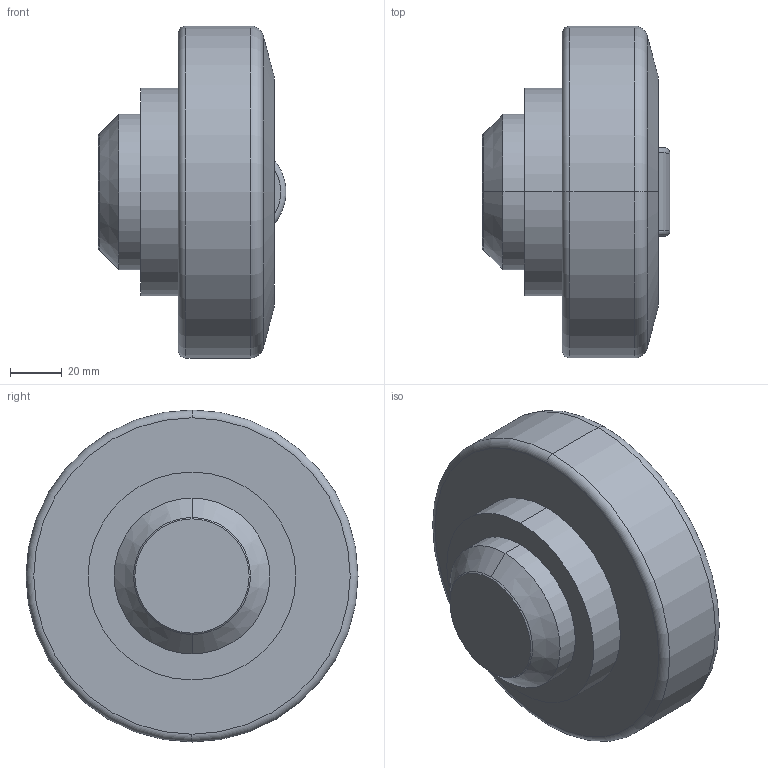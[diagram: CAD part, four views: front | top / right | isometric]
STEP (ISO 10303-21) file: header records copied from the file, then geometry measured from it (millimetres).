
FILE_DESCRIPTION (( 'STEP AP214' ), '1' );
FILE_NAME ('3D 4.0462 PR.STEP', '2013-12-09T09:21:31', ( 'usuario' ), ( 'Hewlett-Packard Company' ), 'SwSTEP 2.0', 'SolidWorks 2017', '' );
FILE_SCHEMA (( 'AUTOMOTIVE_DESIGN' ));
Length unit declared in the file: millimetre
Products named in the file (1): 3D 4.0462 PR
Bounding box: 72.24 x 127.8 x 127.8 mm (x, y, z)
Volume: 569890.9 mm3; surface area: 43569.5 mm2
Topology: 1 solids, 1 shells, 25 faces, 50 edges, 30 vertices
Faces by surface type: cylinder 7, torus 6, cone 6, plane 6
Entity records: 736 total; most frequent: CARTESIAN_POINT 162, DIRECTION 128, ORIENTED_EDGE 100, AXIS2_PLACEMENT_3D 56, EDGE_CURVE 50, VERTEX_POINT 30, CIRCLE 30, EDGE_LOOP 28
